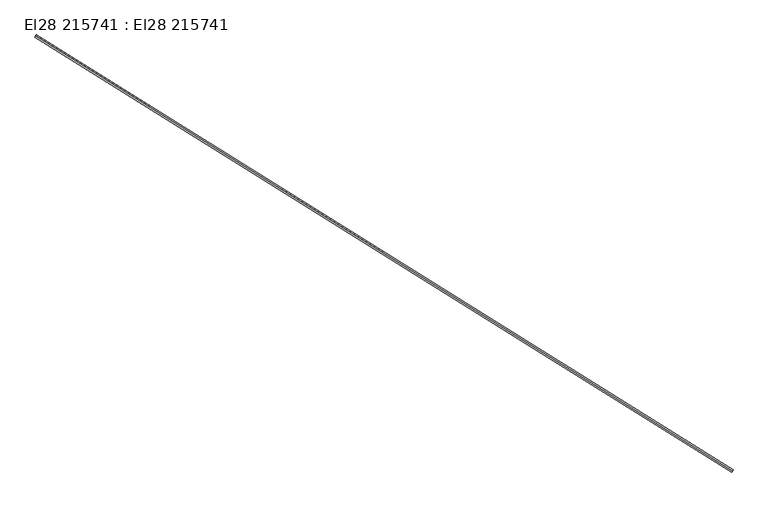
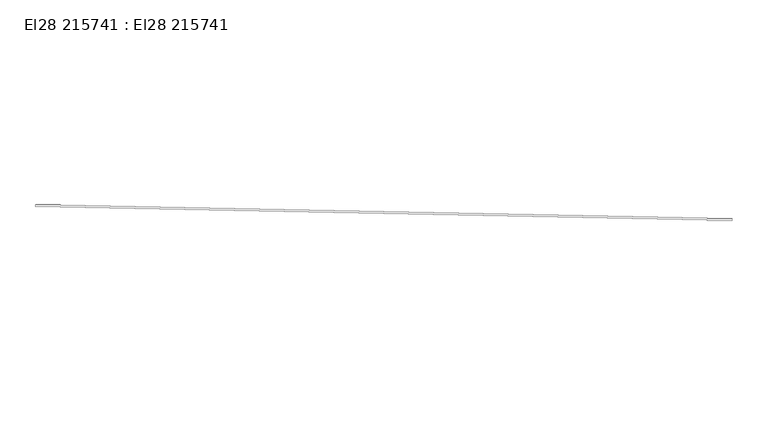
"""IFC4 building model written with IfcOpenShell, lengths in millimetres: cable carrier segment geometry, El28 215741 : El28 215741."""

from ifc_helpers import new_model, si_unit, point, frame, frame_2d, origin, place, context, project, spatial, circle_curve, trimmed, segment, composite_curve, outline, extrude, source, transform, mapped, element, save


def el28_215741_el28_215741_75b8ba97(model_context):
    return source(origin(), model_context, "Body", "SweptSolid", [
        extrude(outline(composite_curve([segment(trimmed(circle_curve(frame_2d((0.0, -9.5)), 9.5), [point((0.0, -19.0))], [point((0.0, 0.0))], False, "CARTESIAN"), True, "CONTINUOUS"), segment(trimmed(circle_curve(frame_2d((0.0, -9.5)), 9.5), [point((0.0, 0.0))], [point((0.0, -19.0))], False, "CARTESIAN"), True, "CONTINUOUS")], self_intersect=False)), frame((25958.3843009, 13217.5162797, 3009.5), z_axis=(-0.8480493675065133, 0.5299172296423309, 0.0), x_axis=(-0.5299172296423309, -0.8480493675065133, 0.0)), (0.0, 0.0, 1.0), 6063.52),
    ])


if __name__ == "__main__":
    model = new_model("IFC4")
    model_context = context("Model", 3, world=origin())
    ifc_project = project(units=[si_unit("LENGTHUNIT", "METRE", prefix="MILLI")], contexts=[model_context])
    site = spatial("IfcSite", under=ifc_project)
    building = spatial("IfcBuilding", under=site)
    placement = place(None, origin())
    el28_215741_el28_215741_shape = el28_215741_el28_215741_75b8ba97(model_context)
    element("IfcCableCarrierSegment", 1, ObjectType="El28 215741 : El28 215741", at=placement, inside=building, context=model_context, shape_type="MappedRepresentation", body=[
        mapped(el28_215741_el28_215741_shape, transform((0.0, 0.0, 0.0), x_axis=(1.0, 0.0, 0.0), y_axis=(0.0, 1.0, 0.0), z_axis=(0.0, 0.0, 1.0))),
    ])
    save(model, "model.ifc")
